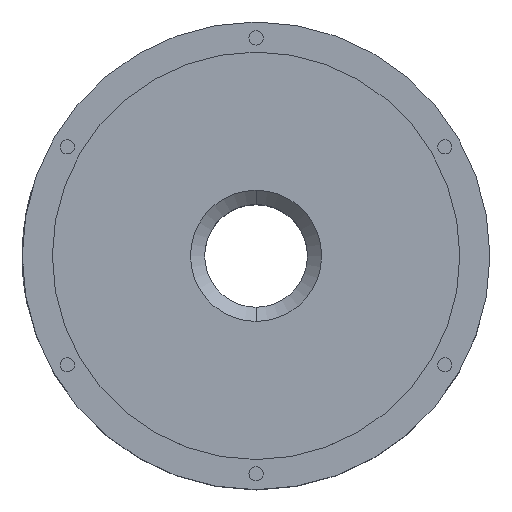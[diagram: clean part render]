
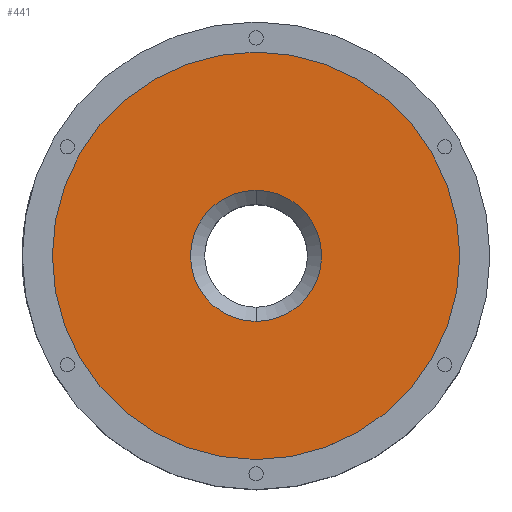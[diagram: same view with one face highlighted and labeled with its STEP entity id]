
A CAD part, top view. The second image highlights one B-rep face of the part: STEP entity #441.
In plain terms, the highlighted planar face has unit normal (0, 0, 1).
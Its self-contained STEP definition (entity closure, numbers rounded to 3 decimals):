
#411 = EDGE_LOOP ( 'NONE', ( #426, #445 ) ) ;
#426 = ORIENTED_EDGE ( 'NONE', *, *, #597, .T. ) ;
#434 = EDGE_LOOP ( 'NONE', ( #438, #440 ) ) ;
#438 = ORIENTED_EDGE ( 'NONE', *, *, #3084, .F. ) ;
#440 = ORIENTED_EDGE ( 'NONE', *, *, #446, .F. ) ;
#441 = ADVANCED_FACE ( 'NONE', ( #2934, #2933 ), #2863, .T. ) ;
#445 = ORIENTED_EDGE ( 'NONE', *, *, #455, .T. ) ;
#446 = EDGE_CURVE ( 'NONE', #1934, #1431, #2873, .T. ) ;
#455 = EDGE_CURVE ( 'NONE', #541, #598, #2956, .T. ) ;
#541 = VERTEX_POINT ( 'NONE', #3075 ) ;
#597 = EDGE_CURVE ( 'NONE', #598, #541, #3173, .T. ) ;
#598 = VERTEX_POINT ( 'NONE', #3168 ) ;
#1431 = VERTEX_POINT ( 'NONE', #4762 ) ;
#1934 = VERTEX_POINT ( 'NONE', #5732 ) ;
#2863 = PLANE ( 'NONE',  #2920 ) ;
#2873 = CIRCLE ( 'NONE', #2921, 115. ) ;
#2910 = DIRECTION ( 'NONE',  ( 0., 1., 0. ) ) ;
#2911 = DIRECTION ( 'NONE',  ( 0., 0., -1. ) ) ;
#2912 = CARTESIAN_POINT ( 'NONE',  ( 0., 0., 113. ) ) ;
#2917 = DIRECTION ( 'NONE',  ( 0., -1., 0. ) ) ;
#2918 = DIRECTION ( 'NONE',  ( 0., 0., 1. ) ) ;
#2919 = CARTESIAN_POINT ( 'NONE',  ( 0., -29., 113. ) ) ;
#2920 = AXIS2_PLACEMENT_3D ( 'NONE', #2919, #2918, #2917 ) ;
#2921 = AXIS2_PLACEMENT_3D ( 'NONE', #2912, #2911, #2910 ) ;
#2933 = FACE_OUTER_BOUND ( 'NONE', #434, .T. ) ;
#2934 = FACE_BOUND ( 'NONE', #411, .T. ) ;
#2942 = DIRECTION ( 'NONE',  ( 0., -1., 0. ) ) ;
#2944 = DIRECTION ( 'NONE',  ( 0., 0., -1. ) ) ;
#2946 = CARTESIAN_POINT ( 'NONE',  ( 0., 0., 113. ) ) ;
#2947 = AXIS2_PLACEMENT_3D ( 'NONE', #2946, #2944, #2942 ) ;
#2956 = CIRCLE ( 'NONE', #2947, 37. ) ;
#3075 = CARTESIAN_POINT ( 'NONE',  ( 0., 37., 113. ) ) ;
#3084 = EDGE_CURVE ( 'NONE', #1431, #1934, #6235, .T. ) ;
#3168 = CARTESIAN_POINT ( 'NONE',  ( 0., -37., 113. ) ) ;
#3173 = CIRCLE ( 'NONE', #3181, 37. ) ;
#3181 = AXIS2_PLACEMENT_3D ( 'NONE', #3216, #3215, #3214 ) ;
#3214 = DIRECTION ( 'NONE',  ( 0., -1., 0. ) ) ;
#3215 = DIRECTION ( 'NONE',  ( 0., 0., -1. ) ) ;
#3216 = CARTESIAN_POINT ( 'NONE',  ( 0., 0., 113. ) ) ;
#4762 = CARTESIAN_POINT ( 'NONE',  ( 0., 115., 113. ) ) ;
#5732 = CARTESIAN_POINT ( 'NONE',  ( 0., -115., 113. ) ) ;
#6226 = DIRECTION ( 'NONE',  ( 0., 1., 0. ) ) ;
#6227 = DIRECTION ( 'NONE',  ( 0., 0., -1. ) ) ;
#6228 = CARTESIAN_POINT ( 'NONE',  ( 0., 0., 113. ) ) ;
#6229 = AXIS2_PLACEMENT_3D ( 'NONE', #6228, #6227, #6226 ) ;
#6235 = CIRCLE ( 'NONE', #6229, 115. ) ;
